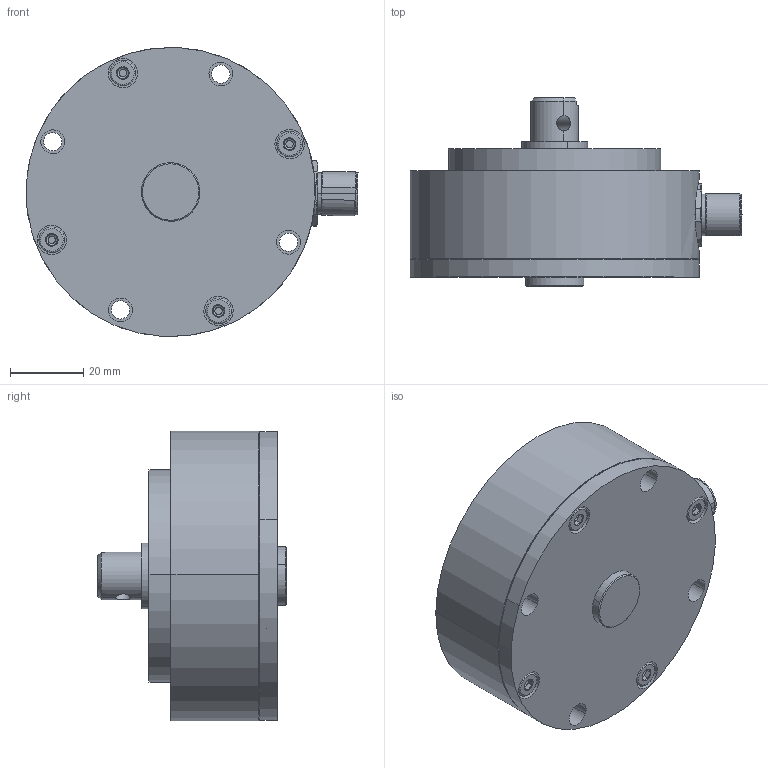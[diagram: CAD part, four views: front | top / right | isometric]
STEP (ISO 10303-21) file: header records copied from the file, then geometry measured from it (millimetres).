
FILE_DESCRIPTION (( 'STEP AP214' ), '1' );
FILE_NAME ('IPX-7941-_ _ _-_ _ _-551.STEP', '2017-09-14T08:26:11', ( 'dummy' ), ( 'Microsoft' ), 'SwSTEP 2.0', 'SolidWorks 2014', '' );
FILE_SCHEMA (( 'AUTOMOTIVE_DESIGN' ));
Length unit declared in the file: millimetre
Products named in the file (1): IPX-7941-_ _ _-_ _ _-551
Bounding box: 90.65 x 51.5 x 79 mm (x, y, z)
Surface area: 24952.6 mm2 (no closed solid volume)
Topology: 0 solids, 15 shells, 217 faces, 556 edges, 344 vertices
Faces by surface type: cylinder 77, plane 63, cone 61, torus 16
Entity records: 9323 total; most frequent: CARTESIAN_POINT 1596, DIRECTION 1225, ORIENTED_EDGE 968, EDGE_CURVE 556, AXIS2_PLACEMENT_3D 513, VERTEX_POINT 344, CIRCLE 295, EDGE_LOOP 252
